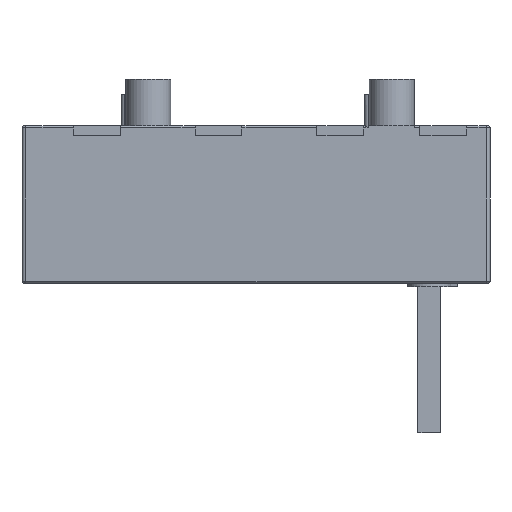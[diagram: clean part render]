
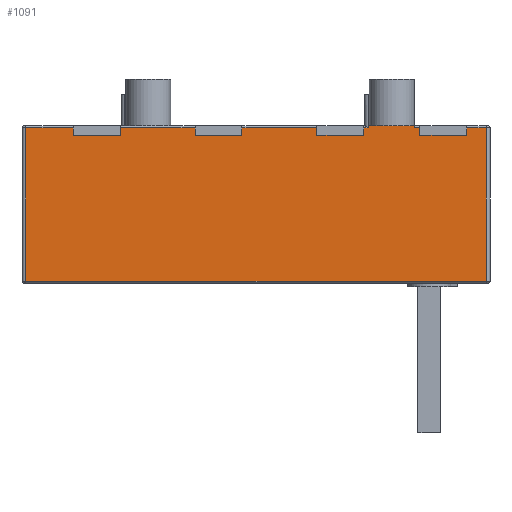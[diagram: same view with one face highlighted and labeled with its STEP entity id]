
A CAD part, front view. The second image highlights one B-rep face of the part: STEP entity #1091.
In plain terms, the highlighted planar face has unit normal (0, -1, 0).
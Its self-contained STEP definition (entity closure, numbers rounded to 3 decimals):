
#147=LINE('',#5572,#455);
#149=LINE('',#5581,#457);
#152=LINE('',#5586,#460);
#169=LINE('',#5626,#477);
#171=LINE('',#5635,#479);
#174=LINE('',#5640,#482);
#191=LINE('',#5680,#499);
#193=LINE('',#5689,#501);
#196=LINE('',#5694,#504);
#212=LINE('',#5732,#520);
#215=LINE('',#5740,#523);
#218=LINE('',#5748,#526);
#234=LINE('',#5816,#542);
#243=LINE('',#5907,#551);
#248=LINE('',#5924,#556);
#249=LINE('',#5926,#557);
#273=LINE('',#6054,#581);
#280=LINE('',#6103,#588);
#312=LINE('',#6203,#620);
#318=LINE('',#6215,#626);
#328=LINE('',#6239,#636);
#336=LINE('',#6255,#644);
#339=LINE('',#6259,#647);
#343=LINE('',#6265,#651);
#344=LINE('',#6266,#652);
#345=LINE('',#6267,#653);
#455=VECTOR('',#4499,1.);
#457=VECTOR('',#4507,1.);
#460=VECTOR('',#4512,1.);
#477=VECTOR('',#4545,1.);
#479=VECTOR('',#4553,1.);
#482=VECTOR('',#4558,1.);
#499=VECTOR('',#4591,1.);
#501=VECTOR('',#4599,1.);
#504=VECTOR('',#4604,1.);
#520=VECTOR('',#4636,1.);
#523=VECTOR('',#4643,1.);
#526=VECTOR('',#4650,1.);
#542=VECTOR('',#4702,1.);
#551=VECTOR('',#4767,1.);
#556=VECTOR('',#4790,1.);
#557=VECTOR('',#4793,1.);
#581=VECTOR('',#4933,1.);
#588=VECTOR('',#4954,1.);
#620=VECTOR('',#5054,1.);
#626=VECTOR('',#5066,1.);
#636=VECTOR('',#5092,1.);
#644=VECTOR('',#5116,1.);
#647=VECTOR('',#5121,1.);
#651=VECTOR('',#5129,1.);
#652=VECTOR('',#5130,1.);
#653=VECTOR('',#5131,1.);
#1091=ADVANCED_FACE('',(#1333),#1203,.T.);
#1203=PLANE('',#4058);
#1333=FACE_OUTER_BOUND('',#1595,.T.);
#1595=EDGE_LOOP('',(#2508,#2509,#2510,#2511,#2512,#2513,#2514,#2515,#2516,
#2517,#2518,#2519,#2520,#2521,#2522,#2523,#2524,#2525,#2526,#2527,#2528,
#2529,#2530,#2531,#2532,#2533));
#2508=ORIENTED_EDGE('',*,*,#3172,.F.);
#2509=ORIENTED_EDGE('',*,*,#3473,.T.);
#2510=ORIENTED_EDGE('',*,*,#3445,.T.);
#2511=ORIENTED_EDGE('',*,*,#3438,.F.);
#2512=ORIENTED_EDGE('',*,*,#3374,.F.);
#2513=ORIENTED_EDGE('',*,*,#3458,.T.);
#2514=ORIENTED_EDGE('',*,*,#3387,.T.);
#2515=ORIENTED_EDGE('',*,*,#3469,.T.);
#2516=ORIENTED_EDGE('',*,*,#3249,.T.);
#2517=ORIENTED_EDGE('',*,*,#3253,.T.);
#2518=ORIENTED_EDGE('',*,*,#3245,.T.);
#2519=ORIENTED_EDGE('',*,*,#3466,.T.);
#2520=ORIENTED_EDGE('',*,*,#3194,.F.);
#2521=ORIENTED_EDGE('',*,*,#3201,.F.);
#2522=ORIENTED_EDGE('',*,*,#3198,.F.);
#2523=ORIENTED_EDGE('',*,*,#3474,.T.);
#2524=ORIENTED_EDGE('',*,*,#3220,.F.);
#2525=ORIENTED_EDGE('',*,*,#3227,.F.);
#2526=ORIENTED_EDGE('',*,*,#3224,.F.);
#2527=ORIENTED_EDGE('',*,*,#3475,.T.);
#2528=ORIENTED_EDGE('',*,*,#3319,.F.);
#2529=ORIENTED_EDGE('',*,*,#3309,.T.);
#2530=ORIENTED_EDGE('',*,*,#3318,.T.);
#2531=ORIENTED_EDGE('',*,*,#3279,.T.);
#2532=ORIENTED_EDGE('',*,*,#3168,.F.);
#2533=ORIENTED_EDGE('',*,*,#3175,.F.);
#2769=VERTEX_POINT('',#5571);
#2770=VERTEX_POINT('',#5573);
#2773=VERTEX_POINT('',#5580);
#2774=VERTEX_POINT('',#5582);
#2789=VERTEX_POINT('',#5625);
#2790=VERTEX_POINT('',#5627);
#2793=VERTEX_POINT('',#5634);
#2794=VERTEX_POINT('',#5636);
#2809=VERTEX_POINT('',#5679);
#2810=VERTEX_POINT('',#5681);
#2813=VERTEX_POINT('',#5688);
#2814=VERTEX_POINT('',#5690);
#2829=VERTEX_POINT('',#5733);
#2830=VERTEX_POINT('',#5734);
#2832=VERTEX_POINT('',#5741);
#2833=VERTEX_POINT('',#5742);
#2852=VERTEX_POINT('',#5797);
#2859=VERTEX_POINT('',#5835);
#2869=VERTEX_POINT('',#5862);
#2873=VERTEX_POINT('',#5904);
#2923=VERTEX_POINT('',#6053);
#2924=VERTEX_POINT('',#6055);
#2931=VERTEX_POINT('',#6085);
#2934=VERTEX_POINT('',#6102);
#2969=VERTEX_POINT('',#6204);
#2972=VERTEX_POINT('',#6216);
#3168=EDGE_CURVE('',#2769,#2770,#147,.T.);
#3172=EDGE_CURVE('',#2773,#2774,#149,.T.);
#3175=EDGE_CURVE('',#2774,#2769,#152,.T.);
#3194=EDGE_CURVE('',#2789,#2790,#169,.T.);
#3198=EDGE_CURVE('',#2793,#2794,#171,.T.);
#3201=EDGE_CURVE('',#2794,#2789,#174,.T.);
#3220=EDGE_CURVE('',#2809,#2810,#191,.T.);
#3224=EDGE_CURVE('',#2813,#2814,#193,.T.);
#3227=EDGE_CURVE('',#2814,#2809,#196,.T.);
#3245=EDGE_CURVE('',#2829,#2830,#212,.T.);
#3249=EDGE_CURVE('',#2832,#2833,#215,.T.);
#3253=EDGE_CURVE('',#2833,#2829,#218,.T.);
#3279=EDGE_CURVE('',#2852,#2770,#234,.T.);
#3309=EDGE_CURVE('',#2873,#2869,#243,.T.);
#3318=EDGE_CURVE('',#2869,#2852,#248,.T.);
#3319=EDGE_CURVE('',#2873,#2859,#249,.T.);
#3374=EDGE_CURVE('',#2923,#2924,#273,.T.);
#3387=EDGE_CURVE('',#2931,#2934,#280,.T.);
#3438=EDGE_CURVE('',#2924,#2969,#312,.T.);
#3445=EDGE_CURVE('',#2972,#2969,#318,.T.);
#3458=EDGE_CURVE('',#2923,#2931,#328,.T.);
#3466=EDGE_CURVE('',#2830,#2790,#336,.T.);
#3469=EDGE_CURVE('',#2934,#2832,#339,.T.);
#3473=EDGE_CURVE('',#2773,#2972,#343,.T.);
#3474=EDGE_CURVE('',#2793,#2810,#344,.T.);
#3475=EDGE_CURVE('',#2813,#2859,#345,.T.);
#4058=AXIS2_PLACEMENT_3D('',#6268,#5132,#5133);
#4499=DIRECTION('',(0.,0.,1.));
#4507=DIRECTION('',(0.,0.,-1.));
#4512=DIRECTION('',(1.,0.,0.));
#4545=DIRECTION('',(0.,0.,1.));
#4553=DIRECTION('',(0.,0.,-1.));
#4558=DIRECTION('',(1.,0.,0.));
#4591=DIRECTION('',(0.,0.,1.));
#4599=DIRECTION('',(0.,0.,-1.));
#4604=DIRECTION('',(1.,0.,0.));
#4636=DIRECTION('',(0.,0.,1.));
#4643=DIRECTION('',(0.,0.,-1.));
#4650=DIRECTION('',(-1.,0.,0.));
#4702=DIRECTION('',(-1.,0.,0.));
#4767=DIRECTION('',(1.,0.,0.));
#4790=DIRECTION('',(0.,0.,1.));
#4793=DIRECTION('',(0.,0.,1.));
#4933=DIRECTION('',(0.,0.,-1.));
#4954=DIRECTION('',(0.,0.,-1.));
#5054=DIRECTION('',(1.,0.,0.));
#5066=DIRECTION('',(0.,0.,1.));
#5092=DIRECTION('',(-1.,0.,0.));
#5116=DIRECTION('',(-1.,0.,0.));
#5121=DIRECTION('',(-1.,0.,0.));
#5129=DIRECTION('',(-1.,0.,0.));
#5130=DIRECTION('',(-1.,0.,0.));
#5131=DIRECTION('',(-1.,0.,0.));
#5132=DIRECTION('',(0.,-1.,0.));
#5133=DIRECTION('',(1.,0.,0.));
#5571=CARTESIAN_POINT('',(40.,-52.5,-5.));
#5572=CARTESIAN_POINT('',(40.,-52.5,4.));
#5573=CARTESIAN_POINT('',(40.,-52.5,-1.));
#5580=CARTESIAN_POINT('',(15.,-52.5,-1.));
#5581=CARTESIAN_POINT('',(15.,-52.5,4.));
#5582=CARTESIAN_POINT('',(15.,-52.5,-5.));
#5586=CARTESIAN_POINT('',(-12.,-52.5,-5.));
#5625=CARTESIAN_POINT('',(-80.,-52.5,-5.));
#5626=CARTESIAN_POINT('',(-80.,-52.5,4.));
#5627=CARTESIAN_POINT('',(-80.,-52.5,-1.));
#5634=CARTESIAN_POINT('',(-105.,-52.5,-1.));
#5635=CARTESIAN_POINT('',(-105.,-52.5,4.));
#5636=CARTESIAN_POINT('',(-105.,-52.5,-5.));
#5640=CARTESIAN_POINT('',(-12.,-52.5,-5.));
#5679=CARTESIAN_POINT('',(-145.,-52.5,-5.));
#5680=CARTESIAN_POINT('',(-145.,-52.5,4.));
#5681=CARTESIAN_POINT('',(-145.,-52.5,-1.));
#5688=CARTESIAN_POINT('',(-170.,-52.5,-1.));
#5689=CARTESIAN_POINT('',(-170.,-52.5,4.));
#5690=CARTESIAN_POINT('',(-170.,-52.5,-5.));
#5694=CARTESIAN_POINT('',(-12.,-52.5,-5.));
#5732=CARTESIAN_POINT('',(-40.,-52.5,4.));
#5733=CARTESIAN_POINT('',(-40.,-52.5,-5.));
#5734=CARTESIAN_POINT('',(-40.,-52.5,-1.));
#5740=CARTESIAN_POINT('',(-15.,-52.5,4.));
#5741=CARTESIAN_POINT('',(-15.,-52.5,-1.));
#5742=CARTESIAN_POINT('',(-15.,-52.5,-5.));
#5748=CARTESIAN_POINT('',(-12.,-52.5,-5.));
#5797=CARTESIAN_POINT('',(50.5,-52.5,-1.));
#5816=CARTESIAN_POINT('',(12.,-52.5,-1.));
#5835=CARTESIAN_POINT('',(-195.5,-52.5,-1.));
#5862=CARTESIAN_POINT('',(50.5,-52.5,-83.));
#5904=CARTESIAN_POINT('',(-195.5,-52.5,-83.));
#5907=CARTESIAN_POINT('',(-12.,-52.5,-83.));
#5924=CARTESIAN_POINT('',(50.5,-52.5,-84.));
#5926=CARTESIAN_POINT('',(-195.5,-52.5,-84.));
#6053=CARTESIAN_POINT('',(-12.,-52.5,17.));
#6054=CARTESIAN_POINT('',(-12.,-52.5,25.));
#6055=CARTESIAN_POINT('',(-12.,-52.5,0.));
#6085=CARTESIAN_POINT('',(-12.5,-52.5,17.));
#6102=CARTESIAN_POINT('',(-12.5,-52.5,-1.));
#6103=CARTESIAN_POINT('',(-12.5,-52.5,4.));
#6203=CARTESIAN_POINT('',(50.5,-52.5,0.));
#6204=CARTESIAN_POINT('',(12.,-52.5,0.));
#6215=CARTESIAN_POINT('',(12.,-52.5,4.));
#6216=CARTESIAN_POINT('',(12.,-52.5,-1.));
#6239=CARTESIAN_POINT('',(7.5,-52.5,17.));
#6255=CARTESIAN_POINT('',(-195.5,-52.5,-1.));
#6259=CARTESIAN_POINT('',(-195.5,-52.5,-1.));
#6265=CARTESIAN_POINT('',(12.,-52.5,-1.));
#6266=CARTESIAN_POINT('',(-195.5,-52.5,-1.));
#6267=CARTESIAN_POINT('',(-195.5,-52.5,-1.));
#6268=CARTESIAN_POINT('',(-12.,-52.5,4.));
